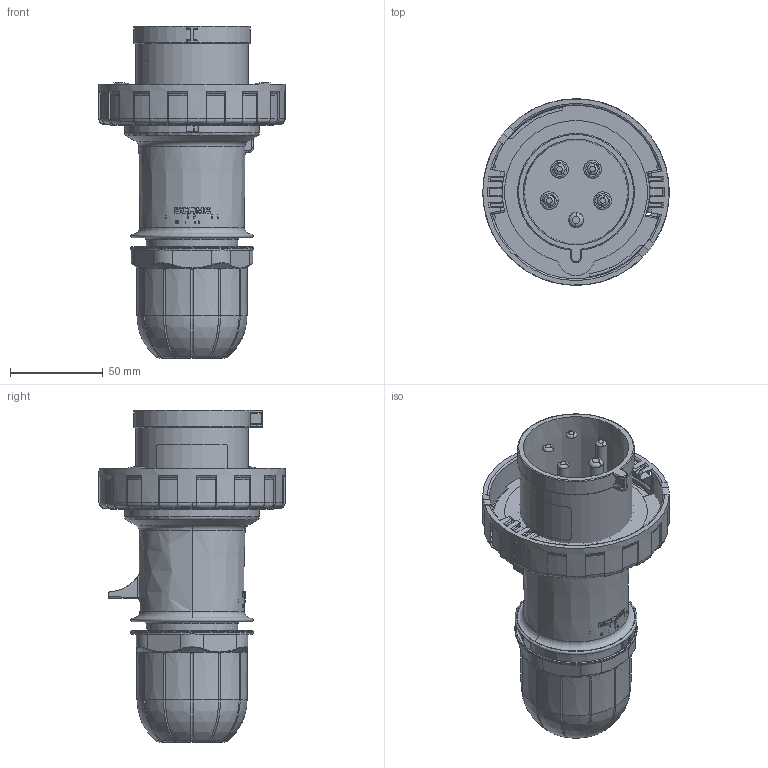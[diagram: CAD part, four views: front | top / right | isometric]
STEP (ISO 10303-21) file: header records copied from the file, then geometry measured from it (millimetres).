
FILE_DESCRIPTION(/* description */ (''),/* implementation_level */ '2;1');
FILE_NAME(/* name */ '4002085.stp',/* time_stamp */ '2017-04-11T23:35:32+02:00',/* author */ (''),/* organization */ (''),/* preprocessor_version */ 'ST-DEVELOPER v16',/* originating_system */ 'SIEMENS PLM Software NX 11.0',/* authorisation */ '');
FILE_SCHEMA (('AUTOMOTIVE_DESIGN { 1 0 10303 214 3 1 1 1 }'));
Products named in the file (1): 4002085_LINKEDEXT_jt
Bounding box: 100.49 x 100.43 x 179 mm (x, y, z)
Surface area: 100026.5 mm2 (no closed solid volume)
Topology: 0 solids, 54 shells, 484 faces, 2296 edges, 1832 vertices
Faces by surface type: bspline 166, plane 104, cylinder 98, cone 72, torus 32, sphere 12
Full cylindrical faces by diameter (mm): 6 x2, 8 x1, 16 x1, 55.5 x1, 60.5 x1, 66 x1, 84.8 x1, 93.5 x1, 100.5 x1
Entity records: 46923 total; most frequent: CARTESIAN_POINT 27440, ORIENTED_EDGE 3229, DIRECTION 2510, EDGE_CURVE 2261, VERTEX_POINT 1823, B_SPLINE_CURVE_WITH_KNOTS 1070, AXIS2_PLACEMENT_3D 1001, PRESENTATION_STYLE_ASSIGNMENT 535
